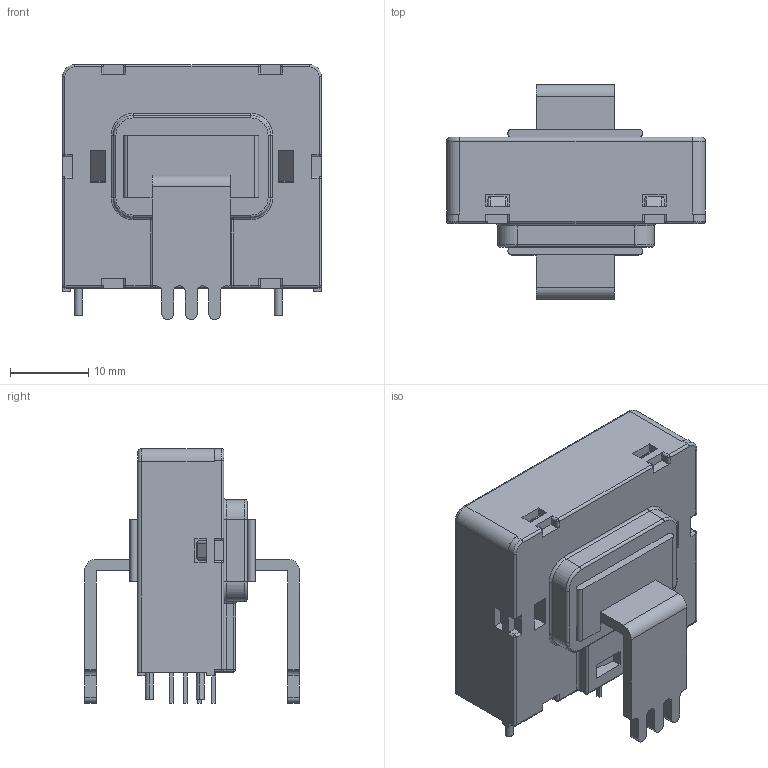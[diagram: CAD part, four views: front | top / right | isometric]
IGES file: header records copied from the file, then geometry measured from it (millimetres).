
Start section: Elysium IGES Interface
Global section: file name: 80HC:\Documents and Settings\tah\デスクトップ\BLACK_BOX\HAIS\HAIS xxx-TP series.igs; native system: CoCreate Modeling 17.00A  17-Jun-2010; preprocessor: CoCreate IGES_3D V2.2; author: Unknown; organization: Unknown; date: 20140220.200648; units: millimetre
Bounding box: 33 x 27.4 x 32.5 mm (x, y, z)
Volume: 11712.7 mm3; surface area: 5223.3 mm2
Topology: 1 solids, 1 shells, 398 faces, 1054 edges, 648 vertices
Faces by surface type: bspline 398
